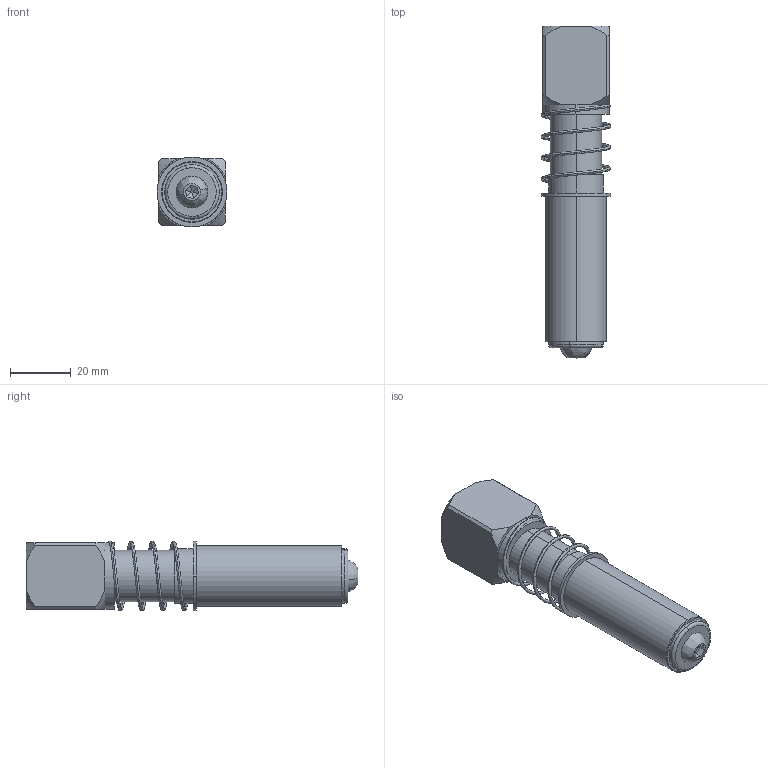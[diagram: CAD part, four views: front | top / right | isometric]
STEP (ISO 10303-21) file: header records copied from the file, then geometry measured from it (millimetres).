
FILE_DESCRIPTION (( 'STEP AP214' ), '1' );
FILE_NAME ('VFM-2020-G14.STEP', '2019-11-15T09:05:20', ( '微软用户' ), ( '微软中国' ), 'SwSTEP 2.0', 'SolidWorks 2016', '' );
FILE_SCHEMA (( 'AUTOMOTIVE_DESIGN' ));
Length unit declared in the file: millimetre
Products named in the file (1): VFM-2020-G14
Bounding box: 23 x 109.3 x 23 mm (x, y, z)
Volume: 34609.3 mm3; surface area: 17704.6 mm2
Topology: 6 solids, 6 shells, 92 faces, 196 edges, 119 vertices
Faces by surface type: plane 36, cylinder 30, cone 20, bspline 6
Entity records: 4986 total; most frequent: CARTESIAN_POINT 1932, DIRECTION 420, ORIENTED_EDGE 384, EDGE_CURVE 192, AXIS2_PLACEMENT_3D 169, VERTEX_POINT 119, EDGE_LOOP 105, UNCERTAINTY_MEASURE_WITH_UNIT 100
